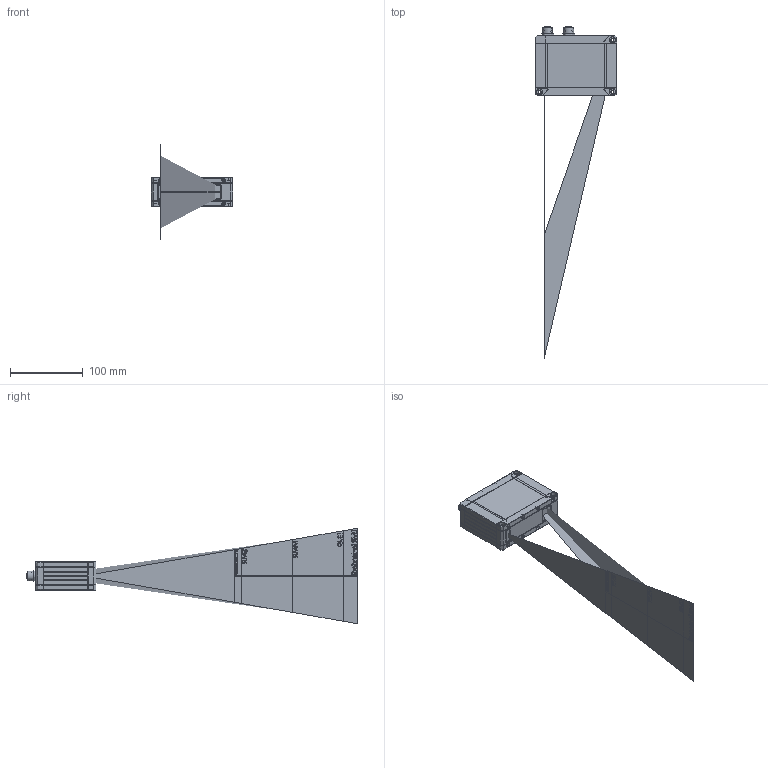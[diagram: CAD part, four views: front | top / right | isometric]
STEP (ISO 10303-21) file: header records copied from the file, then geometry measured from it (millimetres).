
FILE_DESCRIPTION (( 'STEP AP214' ), '1' );
FILE_NAME ('LLT30xx MB100 Blau AA.STEP', '2021-06-24T13:41:08', ( '' ), ( '' ), 'SwSTEP 2.0', 'SolidWorks 2020', '' );
FILE_SCHEMA (( 'AUTOMOTIVE_DESIGN' ));
Length unit declared in the file: millimetre
Products named in the file (1): LLT30xx MB100 Blau AA
Bounding box: 112 x 456 x 131.3 mm (x, y, z)
Volume: 356890.9 mm3; surface area: 162409.5 mm2
Topology: 50 solids, 51 shells, 1493 faces, 3843 edges, 2530 vertices
Faces by surface type: plane 849, bspline 359, cylinder 193, cone 84, torus 8
Full cylindrical faces by diameter (mm): 0.7 x12, 1 x8, 1.5 x8, 1.55 x1, 2.4 x19, 4.2 x3, 4.4 x16, 8 x4, 8.541 x1, 9.4 x3, 9.5 x1, 9.6 x4, 10.28 x1, 10.7 x2, 10.75 x2, 11 x12, 13.5 x2
Entity records: 86295 total; most frequent: CARTESIAN_POINT 36578, ORIENTED_EDGE 7290, DIRECTION 5409, EDGE_CURVE 3645, VERTEX_POINT 2490, LINE 2295, VECTOR 2295, EDGE_LOOP 1819
